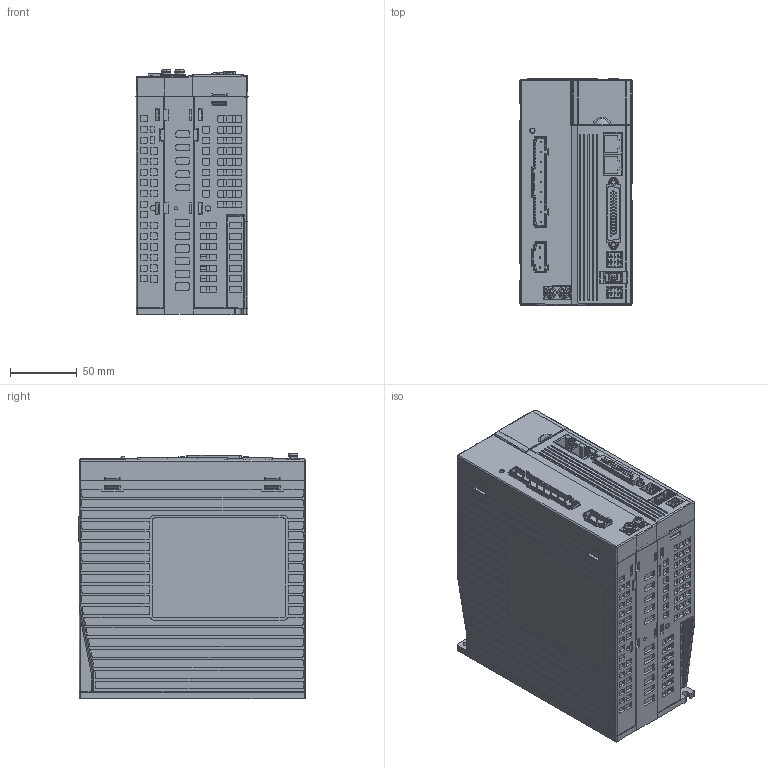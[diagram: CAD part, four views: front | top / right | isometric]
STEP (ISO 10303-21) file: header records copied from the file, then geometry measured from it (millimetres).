
FILE_DESCRIPTION((''),'2;1');
FILE_NAME('DA200A-N-013-S-2-8R5-_SW0001','2024-03-18T15:45:58',('zhaihongyi'),(''),'CREO PARAMETRIC BY PTC INC, 2019080','CREO PARAMETRIC BY PTC INC, 2019080','');
FILE_SCHEMA(('AUTOMOTIVE_DESIGN { 1 0 10303 214 1 1 1 1 }'));
Products named in the file (1): DA200A-N-013-S-2-8R5-_SW0001
Bounding box: 84.01 x 170.55 x 184.42 mm (x, y, z)
Volume: 2274651.8 mm3; surface area: 288696.9 mm2
Topology: 3 solids, 4 shells, 6595 faces, 18257 edges, 11839 vertices
Faces by surface type: plane 3913, cylinder 2128, cone 202, torus 176, bspline 112, sphere 53, extrusion 11
Entity records: 272940 total; most frequent: CARTESIAN_POINT 50403, ORIENTED_EDGE 36464, DIRECTION 32366, PRESENTATION_STYLE_ASSIGNMENT 18236, STYLED_ITEM 18236, CURVE_STYLE 18233, EDGE_CURVE 18232, VECTOR 12907
